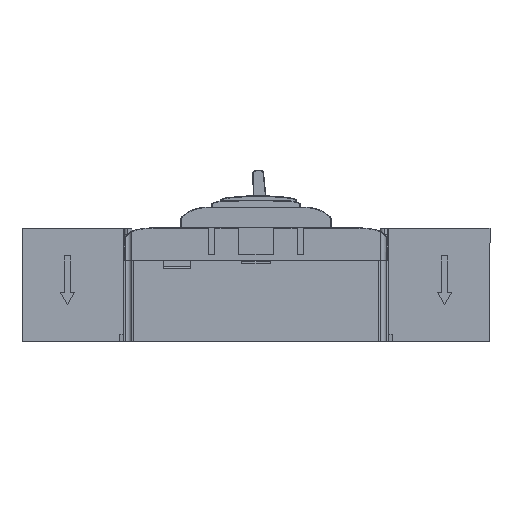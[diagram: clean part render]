
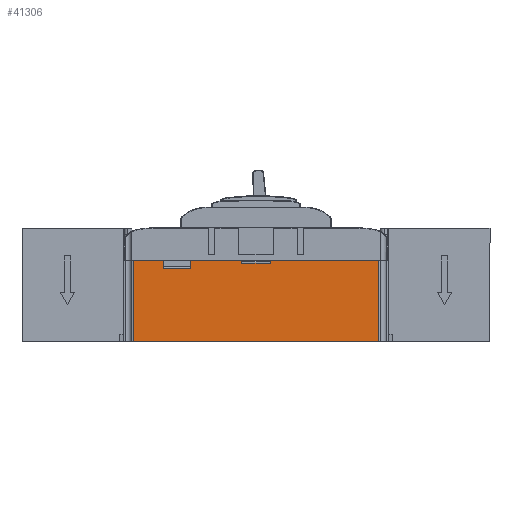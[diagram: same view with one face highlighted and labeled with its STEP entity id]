
A CAD part, left-side view. The second image highlights one B-rep face of the part: STEP entity #41306.
In plain terms, the highlighted planar face has unit normal (-1, 0, 0).
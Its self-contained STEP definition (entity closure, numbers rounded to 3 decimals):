
#739 = EDGE_CURVE ( 'NONE', #79452, #123659, #58552, .T. ) ;
#2085 = DIRECTION ( 'NONE',  ( 0., 0., 1. ) ) ;
#2468 = EDGE_CURVE ( 'NONE', #5897, #78098, #64916, .T. ) ;
#5897 = VERTEX_POINT ( 'NONE', #70968 ) ;
#8120 = CARTESIAN_POINT ( 'NONE',  ( -37.5, 21.2, 50.527 ) ) ;
#10736 = CARTESIAN_POINT ( 'NONE',  ( -37.5, 17.2, -41.85 ) ) ;
#12219 = EDGE_CURVE ( 'NONE', #88440, #95644, #65587, .T. ) ;
#12689 = LINE ( 'NONE', #111925, #67757 ) ;
#12965 = FACE_OUTER_BOUND ( 'NONE', #17571, .T. ) ;
#17571 = EDGE_LOOP ( 'NONE', ( #19063, #88170, #20362, #49086, #107554, #70822, #129327, #71541, #45272, #101465, #100099, #76294 ) ) ;
#19063 = ORIENTED_EDGE ( 'NONE', *, *, #122536, .F. ) ;
#19630 = CARTESIAN_POINT ( 'NONE',  ( -37.5, 21.2, -16.85 ) ) ;
#20362 = ORIENTED_EDGE ( 'NONE', *, *, #46510, .F. ) ;
#21481 = DIRECTION ( 'NONE',  ( 0., 0., 1. ) ) ;
#25405 = LINE ( 'NONE', #69904, #49003 ) ;
#27385 = VECTOR ( 'NONE', #59845, 1000. ) ;
#29525 = VECTOR ( 'NONE', #67357, 1000. ) ;
#30594 = CARTESIAN_POINT ( 'NONE',  ( -37.5, 21.2, -41.85 ) ) ;
#35043 = VERTEX_POINT ( 'NONE', #73533 ) ;
#36510 = VECTOR ( 'NONE', #107450, 1000. ) ;
#36516 = CARTESIAN_POINT ( 'NONE',  ( -37.5, 21.2, -2.85 ) ) ;
#39711 = VECTOR ( 'NONE', #76578, 1000. ) ;
#41306 = ADVANCED_FACE ( 'NONE', ( #12965 ), #103407, .T. ) ;
#42492 = LINE ( 'NONE', #140295, #36510 ) ;
#44472 = CARTESIAN_POINT ( 'NONE',  ( -37.5, 21.2, -70.227 ) ) ;
#45272 = ORIENTED_EDGE ( 'NONE', *, *, #99095, .F. ) ;
#46510 = EDGE_CURVE ( 'NONE', #78098, #95644, #87262, .T. ) ;
#47315 = EDGE_CURVE ( 'NONE', #67409, #79452, #69350, .T. ) ;
#48557 = LINE ( 'NONE', #79197, #142021 ) ;
#49003 = VECTOR ( 'NONE', #2085, 1000. ) ;
#49086 = ORIENTED_EDGE ( 'NONE', *, *, #2468, .F. ) ;
#51634 = EDGE_CURVE ( 'NONE', #123659, #111827, #48557, .T. ) ;
#52283 = DIRECTION ( 'NONE',  ( 0., 0., 1. ) ) ;
#52578 = EDGE_CURVE ( 'NONE', #35043, #56231, #25405, .T. ) ;
#54361 = CARTESIAN_POINT ( 'NONE',  ( -37.5, -18.8, 50.527 ) ) ;
#56231 = VERTEX_POINT ( 'NONE', #140854 ) ;
#58552 = LINE ( 'NONE', #137321, #96073 ) ;
#59845 = DIRECTION ( 'NONE',  ( 0., -1., 0. ) ) ;
#63477 = CARTESIAN_POINT ( 'NONE',  ( -37.5, 21.2, -55.35 ) ) ;
#63838 = LINE ( 'NONE', #142612, #105053 ) ;
#64916 = LINE ( 'NONE', #63477, #39711 ) ;
#65587 = LINE ( 'NONE', #30594, #98154 ) ;
#67357 = DIRECTION ( 'NONE',  ( 0., -1., 0. ) ) ;
#67409 = VERTEX_POINT ( 'NONE', #44472 ) ;
#67757 = VECTOR ( 'NONE', #121422, 1000. ) ;
#68150 = CARTESIAN_POINT ( 'NONE',  ( -37.5, 21.2, -41.85 ) ) ;
#68283 = DIRECTION ( 'NONE',  ( 0., 1., 0. ) ) ;
#69136 = DIRECTION ( 'NONE',  ( 0., 0., 1. ) ) ;
#69350 = LINE ( 'NONE', #113846, #27385 ) ;
#69904 = CARTESIAN_POINT ( 'NONE',  ( -37.5, 19.7, -16.85 ) ) ;
#70513 = CARTESIAN_POINT ( 'NONE',  ( -37.5, 21.2, -41.85 ) ) ;
#70822 = ORIENTED_EDGE ( 'NONE', *, *, #47315, .T. ) ;
#70968 = CARTESIAN_POINT ( 'NONE',  ( -37.5, 21.2, -55.35 ) ) ;
#71541 = ORIENTED_EDGE ( 'NONE', *, *, #51634, .T. ) ;
#73533 = CARTESIAN_POINT ( 'NONE',  ( -37.5, 19.7, -16.85 ) ) ;
#74507 = EDGE_CURVE ( 'NONE', #67409, #5897, #63838, .T. ) ;
#74682 = EDGE_CURVE ( 'NONE', #125310, #56231, #12689, .T. ) ;
#76294 = ORIENTED_EDGE ( 'NONE', *, *, #113437, .F. ) ;
#76578 = DIRECTION ( 'NONE',  ( 0., -1., 0. ) ) ;
#76580 = CARTESIAN_POINT ( 'NONE',  ( -37.5, -18.8, -70.227 ) ) ;
#78098 = VERTEX_POINT ( 'NONE', #106699 ) ;
#79197 = CARTESIAN_POINT ( 'NONE',  ( -37.5, -18.8, 50.527 ) ) ;
#79452 = VERTEX_POINT ( 'NONE', #76580 ) ;
#79755 = VECTOR ( 'NONE', #21481, 1000. ) ;
#85304 = DIRECTION ( 'NONE',  ( 0., -1., 0. ) ) ;
#85466 = VECTOR ( 'NONE', #52283, 1000. ) ;
#87262 = LINE ( 'NONE', #120121, #85466 ) ;
#88170 = ORIENTED_EDGE ( 'NONE', *, *, #12219, .T. ) ;
#88440 = VERTEX_POINT ( 'NONE', #70513 ) ;
#93160 = DIRECTION ( 'NONE',  ( -1., 0., 0. ) ) ;
#95644 = VERTEX_POINT ( 'NONE', #10736 ) ;
#96073 = VECTOR ( 'NONE', #104507, 1000. ) ;
#98154 = VECTOR ( 'NONE', #85304, 1000. ) ;
#99095 = EDGE_CURVE ( 'NONE', #125310, #111827, #42492, .T. ) ;
#100099 = ORIENTED_EDGE ( 'NONE', *, *, #52578, .F. ) ;
#101465 = ORIENTED_EDGE ( 'NONE', *, *, #74682, .T. ) ;
#101654 = CARTESIAN_POINT ( 'NONE',  ( -37.5, 21.2, -16.85 ) ) ;
#103407 = PLANE ( 'NONE',  #138075 ) ;
#104507 = DIRECTION ( 'NONE',  ( 0., 0., 1. ) ) ;
#105053 = VECTOR ( 'NONE', #109080, 1000. ) ;
#106699 = CARTESIAN_POINT ( 'NONE',  ( -37.5, 17.2, -55.35 ) ) ;
#107450 = DIRECTION ( 'NONE',  ( 0., 0., 1. ) ) ;
#107554 = ORIENTED_EDGE ( 'NONE', *, *, #74507, .F. ) ;
#109080 = DIRECTION ( 'NONE',  ( 0., 0., 1. ) ) ;
#111827 = VERTEX_POINT ( 'NONE', #8120 ) ;
#111925 = CARTESIAN_POINT ( 'NONE',  ( -37.5, 21.2, -2.85 ) ) ;
#113437 = EDGE_CURVE ( 'NONE', #142936, #35043, #122802, .T. ) ;
#113846 = CARTESIAN_POINT ( 'NONE',  ( -37.5, 21.2, -70.227 ) ) ;
#120121 = CARTESIAN_POINT ( 'NONE',  ( -37.5, 17.2, -55.35 ) ) ;
#121422 = DIRECTION ( 'NONE',  ( 0., -1., 0. ) ) ;
#122536 = EDGE_CURVE ( 'NONE', #88440, #142936, #123573, .T. ) ;
#122802 = LINE ( 'NONE', #101654, #29525 ) ;
#123573 = LINE ( 'NONE', #68150, #79755 ) ;
#123659 = VERTEX_POINT ( 'NONE', #54361 ) ;
#124562 = CARTESIAN_POINT ( 'NONE',  ( -37.5, 21.2, -74.85 ) ) ;
#125310 = VERTEX_POINT ( 'NONE', #36516 ) ;
#129327 = ORIENTED_EDGE ( 'NONE', *, *, #739, .T. ) ;
#137321 = CARTESIAN_POINT ( 'NONE',  ( -37.5, -18.8, -70.227 ) ) ;
#138075 = AXIS2_PLACEMENT_3D ( 'NONE', #124562, #93160, #69136 ) ;
#140295 = CARTESIAN_POINT ( 'NONE',  ( -37.5, 21.2, -2.85 ) ) ;
#140854 = CARTESIAN_POINT ( 'NONE',  ( -37.5, 19.7, -2.85 ) ) ;
#142021 = VECTOR ( 'NONE', #68283, 1000. ) ;
#142612 = CARTESIAN_POINT ( 'NONE',  ( -37.5, 21.2, -70.227 ) ) ;
#142936 = VERTEX_POINT ( 'NONE', #19630 ) ;
